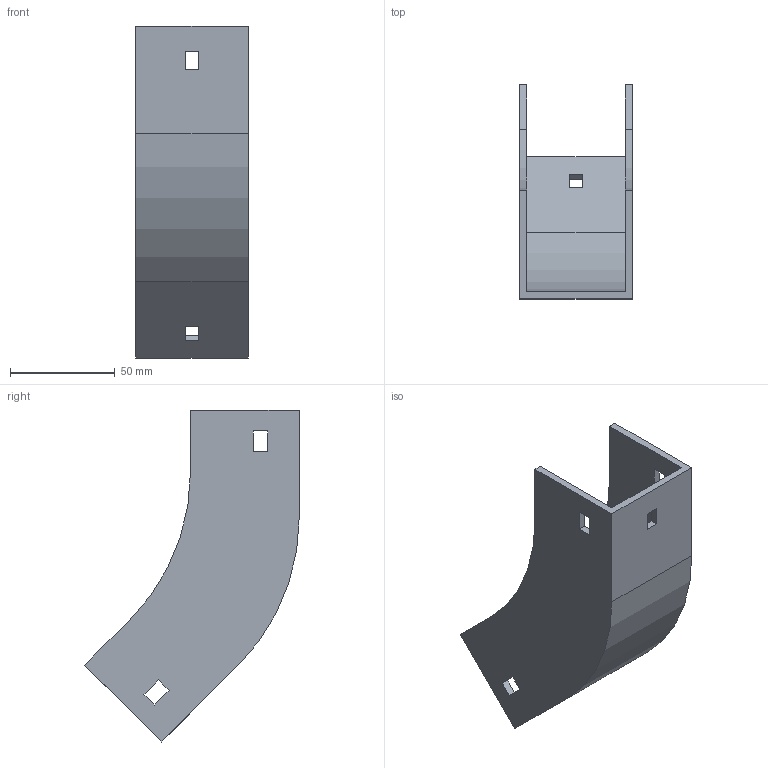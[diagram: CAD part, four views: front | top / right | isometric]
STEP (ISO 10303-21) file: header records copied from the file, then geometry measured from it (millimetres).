
FILE_DESCRIPTION (( 'STEP AP214' ), '1' );
FILE_NAME ('31F1B050.step', '2025-02-21T12:59:45', ( '' ), ( '' ), 'SwSTEP 2.0', 'SolidWorks 2023', '' );
FILE_SCHEMA (( 'AUTOMOTIVE_DESIGN' ));
Length unit declared in the file: millimetre
Products named in the file (1): 31F1B050
Bounding box: 54 x 102.5 x 158.69 mm (x, y, z)
Volume: 88095.6 mm3; surface area: 53069.7 mm2
Topology: 1 solids, 1 shells, 42 faces, 120 edges, 80 vertices
Faces by surface type: plane 38, cylinder 4
Entity records: 1399 total; most frequent: CARTESIAN_POINT 243, ORIENTED_EDGE 240, DIRECTION 214, EDGE_CURVE 120, LINE 112, VECTOR 112, VERTEX_POINT 80, EDGE_LOOP 54
